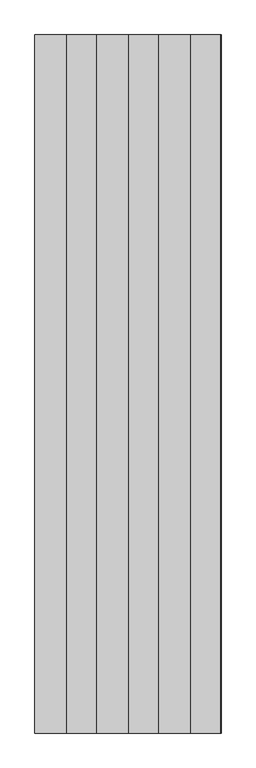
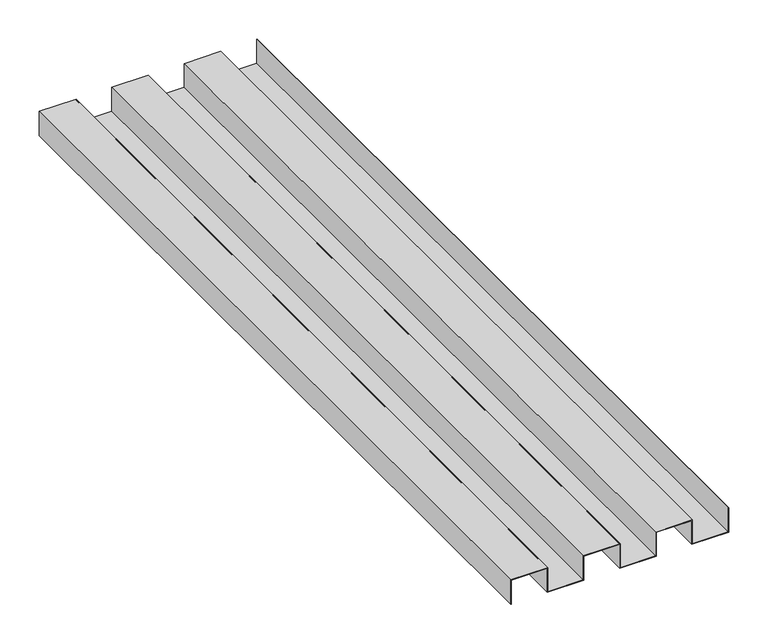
"""IFC4 building model written with IfcOpenShell, lengths in millimetres: proxy geometry, AQUAPLAST - Lamel elewacyjny : Lamel elewacyjny."""

from ifc_helpers import new_model, si_unit, frame, origin, place, context, project, spatial, polyline, outline, extrude, source, transform, mapped, element, save


def specialty_equipment_59029cc0(model_context):
    return source(origin(), model_context, "Body", "SweptSolid", [
        extrude(outline(polyline([(0.0, 158.4), (38.0, 158.4), (38.0, 157.6), (0.8, 157.6), (0.8, 105.1), (38.0, 105.1), (38.0, 51.0), (0.8, 51.0), (0.8, -1.2), (38.0, -1.2), (38.0, -55.3), (0.8, -55.3), (0.8, -107.5), (38.0, -107.5), (38.0, -161.6), (0.0, -161.6), (0.0, -160.8), (37.2, -160.8), (37.2, -108.3), (0.0, -108.3), (0.0, -54.5), (37.2, -54.5), (37.2, -2.0), (0.0, -2.0), (0.0, 51.8), (37.2, 51.8), (37.2, 104.3), (0.0, 104.3), (0.0, 158.4)])), frame((0.0, 0.0, 0.0), z_axis=(0.0, 1.0, 0.0), x_axis=(0.0, 0.0, 1.0)), (0.0, 0.0, 1.0), 1200.0),
    ])


if __name__ == "__main__":
    model = new_model("IFC4")
    model_context = context("Model", 3, world=origin())
    ifc_project = project(units=[si_unit("LENGTHUNIT", "METRE", prefix="MILLI")], contexts=[model_context])
    site = spatial("IfcSite", under=ifc_project)
    building = spatial("IfcBuilding", under=site)
    placement = place(None, origin())
    specialty_equipment_shape = specialty_equipment_59029cc0(model_context)
    element("IfcBuildingElementProxy", 1, Name="AQUAPLAST - Lamel elewacyjny : Lamel elewacyjny", ObjectType="AQUAPLAST - Lamel elewacyjny : Lamel elewacyjny", at=placement, inside=building, context=model_context, shape_type="MappedRepresentation", body=[
        mapped(specialty_equipment_shape, transform((0.0, 0.0, 0.0), x_axis=(1.0, 0.0, 0.0), y_axis=(0.0, 1.0, 0.0), z_axis=(0.0, 0.0, 1.0))),
    ])
    save(model, "model.ifc")
